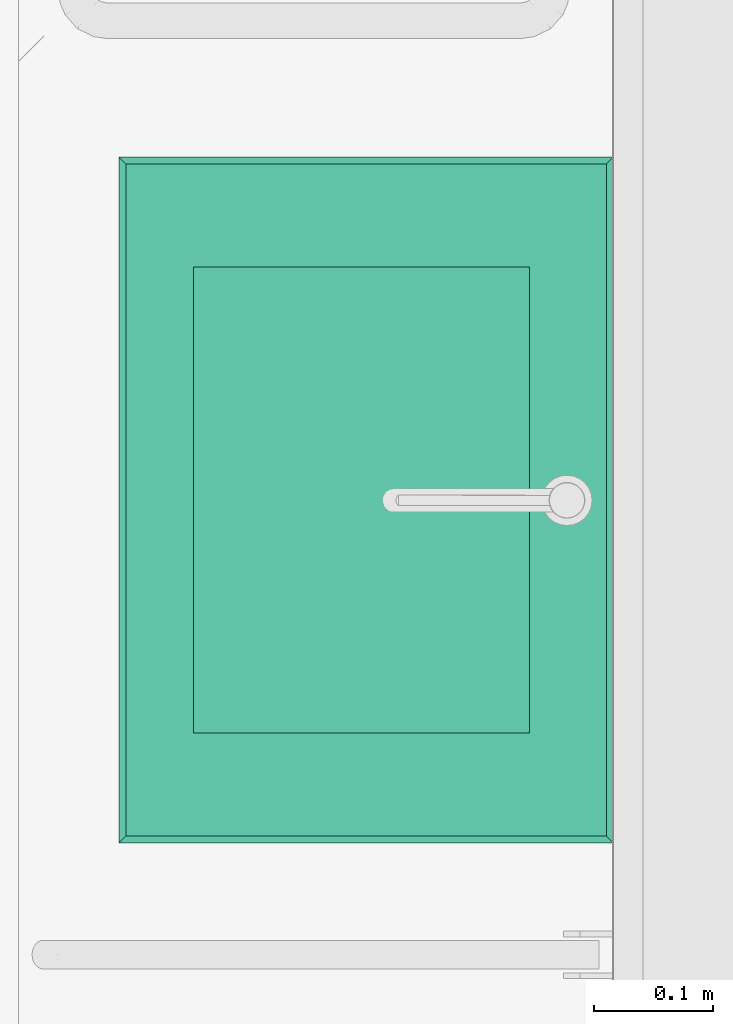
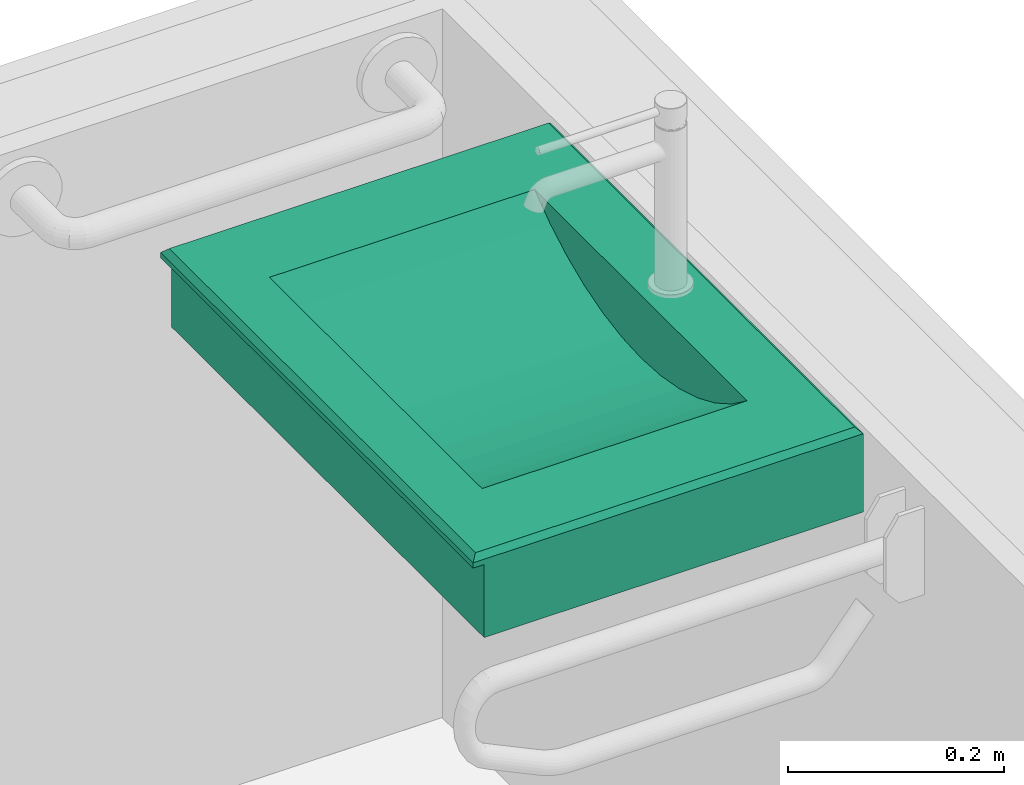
# One storey, part 4 of 4: 1 flow terminal.
"""IFC2X3 building model written with IfcOpenShell, lengths in millimetres."""

import ifcopenshell
import ifcopenshell.guid

model = None  # the IFC model being written
_history = None  # IfcOwnerHistory: only IFC2X3 demands one
_inside = {}  # id of a spatial element -> (the spatial element, [elements in it])
_under = {}  # id of a project, library or spatial element -> (it, [spatial elements below it])
_declared = {}  # id of a project -> (the project, [libraries it declares])
_typed = {}  # id of a type object -> (the type object, [elements of that type])
_made_of = {}  # id of a material, layer set ... -> (it, [elements and type objects made of it])


def new_model(schema):
    """Start an empty IFC model of exactly this schema.

    Asked for "IFC4X3", IfcOpenShell would pick the latest addendum, in which some entities
    have other attributes; the version numbers below select the first issue.
    IFC2X3 requires an IfcOwnerHistory on every rooted entity: one is made here for all.
    """
    global model, _history
    if schema == "IFC4X3":
        model = ifcopenshell.file(schema_version=(4, 3, 0, 0))
    else:
        model = ifcopenshell.file(schema=schema)
    _inside.clear()
    _under.clear()
    _declared.clear()
    _typed.clear()
    _made_of.clear()
    _history = None
    if model.schema == "IFC2X3":
        org = make("IfcOrganization", Name="unknown")
        user = make(
            "IfcPersonAndOrganization",
            ThePerson=make("IfcPerson", FamilyName="unknown"),
            TheOrganization=org,
        )
        app = make(
            "IfcApplication",
            ApplicationDeveloper=org,
            Version="unknown",
            ApplicationFullName="unknown",
            ApplicationIdentifier="unknown",
        )
        _history = make(
            "IfcOwnerHistory",
            OwningUser=user,
            OwningApplication=app,
            ChangeAction="ADDED",
            CreationDate=0,
        )
    return model


def make(cls, **values):
    """One entity of the class cls with the attributes given. An attribute that is None is left unset."""
    return model.create_entity(
        cls, **{name: value for name, value in values.items() if value is not None}
    )


def rooted(cls, **values):
    """An entity with a GlobalId (a new one), such as an element, a storey or a relation."""
    return make(cls, GlobalId=ifcopenshell.guid.new(), OwnerHistory=_history, **values)


def si_unit(unit_type, name, prefix=None):
    """IfcSIUnit, for example si_unit("LENGTHUNIT", "METRE", prefix="MILLI")."""
    return make("IfcSIUnit", UnitType=unit_type, Prefix=prefix, Name=name)


def assignment(units):
    """IfcUnitAssignment: the units of a project."""
    return None if units is None else make("IfcUnitAssignment", Units=units)


def point(xyz):
    """IfcCartesianPoint."""
    return None if xyz is None else make("IfcCartesianPoint", Coordinates=xyz)


def direction(xyz):
    """IfcDirection."""
    return None if xyz is None else make("IfcDirection", DirectionRatios=xyz)


def frame(location, z_axis=None, x_axis=None):
    """IfcAxis2Placement3D, a coordinate frame: its origin and axes. An axis left out is left unset."""
    return make(
        "IfcAxis2Placement3D",
        Location=point(location),
        Axis=direction(z_axis),
        RefDirection=direction(x_axis),
    )


def origin_with_axes():
    """The frame at (0, 0, 0) with the z axis (0, 0, 1) and the x axis (1, 0, 0) written out."""
    return frame((0.0, 0.0, 0.0), z_axis=(0.0, 0.0, 1.0), x_axis=(1.0, 0.0, 0.0))


def place(relative_to, where):
    """IfcLocalPlacement: puts the frame where relative to a parent placement (None: the world)."""
    return make(
        "IfcLocalPlacement", PlacementRelTo=relative_to, RelativePlacement=where
    )


def context(
    kind, dimensions, precision=None, world=None, true_north=None, identifier=None
):
    """IfcGeometricRepresentationContext, for example the 3D "Model" context."""
    return make(
        "IfcGeometricRepresentationContext",
        ContextIdentifier=identifier,
        ContextType=kind,
        CoordinateSpaceDimension=dimensions,
        Precision=precision,
        WorldCoordinateSystem=world,
        TrueNorth=true_north,
    )


def subcontext(parent, identifier, kind, view, scale=None):
    """IfcGeometricRepresentationSubContext, for example "Body" below "Model"."""
    return make(
        "IfcGeometricRepresentationSubContext",
        ContextIdentifier=identifier,
        ContextType=kind,
        ParentContext=parent,
        TargetScale=scale,
        TargetView=view,
    )


def project(units=None, contexts=None):
    """IfcProject with its units and contexts."""
    return rooted(
        "IfcProject",
        Name="project",
        RepresentationContexts=contexts,
        UnitsInContext=assignment(units),
    )


def spatial(cls, under=None, at=None, **own):
    """A site, building, storey or space (cls), placed at a placement, below another one or the project."""
    s = rooted(cls, ObjectPlacement=at, **own)
    if under is not None:
        _under.setdefault(under.id(), (under, []))[1].append(s)
    return s


def faces_of(points, faces, orient=None, outer=None):
    """IfcFace entities. A face is a list of loops; a loop is a list of indices into points, from 0.

    orient and outer hold one flag for each loop. By default every Orientation is true, the
    first loop of a face is its IfcFaceOuterBound and the others are IfcFaceBound.
    """
    made = []
    for i, loops in enumerate(faces):
        bounds = []
        for j, loop in enumerate(loops):
            is_outer = j == 0 if outer is None else outer[i][j]
            bounds.append(
                make(
                    "IfcFaceOuterBound" if is_outer else "IfcFaceBound",
                    Bound=make("IfcPolyLoop", Polygon=[points[k] for k in loop]),
                    Orientation=True if orient is None else orient[i][j],
                )
            )
        made.append(make("IfcFace", Bounds=bounds))
    return made


def faceted_brep(points, faces, orient=None, outer=None, voids=None):
    """IfcFacetedBrep: a solid bounded by flat faces; with voids (closed shells), ...WithVoids."""
    shared = [point(p) for p in points]
    hull = make("IfcClosedShell", CfsFaces=faces_of(shared, faces, orient, outer))
    if voids is None:
        return make("IfcFacetedBrep", Outer=hull)
    return make(
        "IfcFacetedBrepWithVoids",
        Outer=hull,
        Voids=[
            make(cls, CfsFaces=faces_of(shared, fs, o, b)) for cls, fs, o, b in voids
        ],
    )


def shape(context_of_items, identifier, shape_type, items):
    """IfcShapeRepresentation: the items that make up one representation, for example the "Body"."""
    return make(
        "IfcShapeRepresentation",
        ContextOfItems=context_of_items,
        RepresentationIdentifier=identifier,
        RepresentationType=shape_type,
        Items=items,
    )


def material(Name=None, Category=None):
    """IfcMaterial."""
    return make("IfcMaterial", Name=Name, Category=Category)


def made_of(thing, what):
    """Note that an element or type object is made of a material, layer set ...; save() writes the relation."""
    if what is not None:
        _made_of.setdefault(what.id(), (what, []))[1].append(thing)
    return thing


def type_object(cls, material=None, **own):
    """A type object (cls), such as IfcWallType, which elements share."""
    return made_of(rooted(cls, **own), material)


def element(
    cls,
    number,
    at=None,
    inside=None,
    cuts=None,
    type_object=None,
    material=None,
    context=None,
    identifier="Body",
    shape_type=None,
    held_by="IfcProductDefinitionShape",
    body=None,
    shapes=None,
    **own,
):
    """One element of the class cls, such as IfcWall. Its Tag is "e" and its number.

    at: its placement. inside: the storey or other place that contains it. cuts: it is an
    opening in that element (IfcRelVoidsElement). A single representation is given by context,
    identifier, shape_type and body (its items); several are given by shapes. held_by: the class
    of the entity that holds the representations. save() writes the other relations.
    """
    e = rooted(cls, Tag="e%d" % number, ObjectPlacement=at, **own)
    if body is not None:
        shapes = [shape(context, identifier, shape_type, body)]
    if shapes is not None:
        e.Representation = make(held_by, Representations=shapes)
    if inside is not None:
        _inside.setdefault(inside.id(), (inside, []))[1].append(e)
    if cuts is not None:
        rooted(
            "IfcRelVoidsElement", RelatingBuildingElement=cuts, RelatedOpeningElement=e
        )
    if type_object is not None:
        _typed.setdefault(type_object.id(), (type_object, []))[1].append(e)
    return made_of(e, material)


def aggregate(whole, parts):
    """IfcRelAggregates: a whole, such as a stair, and the parts it consists of."""
    return rooted("IfcRelAggregates", RelatingObject=whole, RelatedObjects=parts)


def save(model, path):
    """Write the relations noted so far, then the file.

    IfcRelAggregates (storeys below a building ...), IfcRelContainedInSpatialStructure (elements
    in a storey), IfcRelDefinesByType, IfcRelAssociatesMaterial and IfcRelDeclares: one each for
    every whole, place, type object, material and project.
    """
    for whole, parts in _under.values():
        aggregate(whole, parts)
    for where, things in _inside.values():
        rooted(
            "IfcRelContainedInSpatialStructure",
            RelatedElements=things,
            RelatingStructure=where,
        )
    for kind, things in _typed.values():
        rooted("IfcRelDefinesByType", RelatedObjects=things, RelatingType=kind)
    for what, things in _made_of.values():
        rooted("IfcRelAssociatesMaterial", RelatedObjects=things, RelatingMaterial=what)
    for by, libraries in _declared.values():
        rooted("IfcRelDeclares", RelatingContext=by, RelatedDefinitions=libraries)
    model.write(path)


model = new_model("IFC2X3")

# Units and contexts
model_context = context("Model", 3, world=origin_with_axes())
body_context = subcontext(model_context, "Body", "Model", "MODEL_VIEW")
ifc_project = project(units=[si_unit("LENGTHUNIT", "METRE", prefix="MILLI"), si_unit("AREAUNIT", "SQUARE_METRE"), si_unit("VOLUMEUNIT", "CUBIC_METRE")], contexts=[model_context])

# Site, building, storey
site_placement = place(None, origin_with_axes())
site = spatial("IfcSite", under=ifc_project, at=site_placement, Name="Default Site", CompositionType="ELEMENT")
building_placement = place(site_placement, frame((2276.0499999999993, -7.219114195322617e-13, 0.0), z_axis=(0.0, 0.0, 1.0), x_axis=(2.9143354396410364e-16, 1.0, 0.0)))
building = spatial("IfcBuilding", under=site, at=building_placement, Name="Default Building", CompositionType="ELEMENT")
storey_placement = place(building_placement, origin_with_axes())
storey = spatial("IfcBuildingStorey", under=building, at=storey_placement, Name="Default Building Storey", CompositionType="ELEMENT", Elevation=0.0)

# Flow terminal
ifc_material = material(Name="RPS_Lamp_white")
sanitary_terminal_type = type_object("IfcSanitaryTerminalType", Name="Umywalka", PredefinedType="BATH")
flow_terminal_placement = place(storey_placement, frame((1597.5369602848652, 150.0000000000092, 550.0), z_axis=(0.0, 0.0, 1.0), x_axis=(1.0, 0.0, 0.0)))
element("IfcFlowTerminal", 1, at=flow_terminal_placement, inside=storey, type_object=sanitary_terminal_type, material=ifc_material, Name="Umywalka", context=body_context, shape_type="Brep", body=[
    faceted_brep([(571.5705597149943, 5.892480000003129, 248.26982400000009), (571.5705597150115, 410.5094399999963, 248.26982400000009), (5.89248000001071, 410.50944000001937, 248.26982400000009), (5.892479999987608, 5.892480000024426, 248.26982400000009), (92.31551985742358, 353.5488000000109, 248.26982400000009), (485.14751985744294, 353.5487999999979, 248.26982400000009), (485.14751985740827, 70.70975999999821, 248.26982400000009), (92.3155198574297, 70.70976000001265, 248.26982400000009), (5.775291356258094e-12, 416.40192000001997, 242.3773440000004), (0.0, 2.3462121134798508e-11, 242.3773440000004), (253.31507713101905, 353.5488000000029, 179.60204709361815), (288.7315198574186, 353.54880000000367, 177.56006400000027), (324.1479625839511, 353.5487999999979, 179.60204709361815), (359.0950323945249, 353.5487999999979, 185.70093404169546), (393.1095769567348, 353.54879999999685, 195.77589650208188), (425.74080266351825, 353.54879999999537, 209.6934113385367), (456.55624898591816, 353.5487999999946, 227.26903019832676), (120.90679072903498, 353.54880000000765, 227.26903019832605), (151.7222370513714, 353.54880000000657, 209.6934113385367), (184.35346275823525, 353.54880000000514, 195.77589650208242), (218.36800732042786, 353.54880000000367, 185.70093404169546), (1.732587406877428e-11, 404.61696000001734, 153.9901440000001), (577.4630397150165, 404.61695999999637, 153.9901440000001), (577.4630397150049, 1.8047785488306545e-12, 153.9901440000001), (0.0, 2.3462121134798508e-11, 153.9901440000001), (577.4630397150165, 404.61695999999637, 236.4848640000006), (1.732587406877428e-11, 404.61696000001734, 236.4848640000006), (5.775291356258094e-12, 416.40192000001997, 236.4848640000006), (577.4630397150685, 416.401919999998, 236.4848640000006), (577.4630397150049, 1.8047785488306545e-12, 242.3773440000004), (288.73151985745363, 190.31886831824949, 177.56006400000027), (288.7315198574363, 233.93969168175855, 177.56006400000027), (285.83490181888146, 233.9356956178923, 177.7270724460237), (280.299043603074, 232.44171504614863, 178.04624986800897), (275.33784470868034, 229.56347559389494, 178.33229452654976), (271.28940264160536, 225.49712452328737, 178.5657129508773), (268.4296120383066, 220.51977693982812, 178.73059806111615), (266.9533629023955, 214.97063085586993, 178.8157132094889), (266.96125917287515, 209.2278514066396, 178.8152579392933), (268.45276273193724, 203.68279952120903, 178.72926327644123), (271.32623007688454, 198.71336132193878, 178.56358961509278), (275.38583915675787, 194.65819580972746, 178.3295273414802), (280.35493432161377, 191.79365581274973, 178.04302741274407), (285.89487994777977, 190.31495499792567, 177.7236143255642), (577.4630397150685, 416.401919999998, 242.3773440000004), (288.7315198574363, 234.0259327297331, 177.56006400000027), (288.73151985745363, 190.2326272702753, 177.56006400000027), (289.65600253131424, 190.1501867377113, 177.6133663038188), (295.3036777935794, 191.13877727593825, 177.93899068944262), (300.503471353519, 193.55783588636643, 178.23879184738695), (304.90102587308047, 197.24250772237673, 178.49233882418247), (308.19665527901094, 201.94168848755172, 178.6823528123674), (310.16576787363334, 207.33513677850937, 178.795884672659), (310.6741718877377, 213.0552980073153, 178.82519739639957), (309.68722042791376, 218.7123526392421, 178.76829336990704), (307.2721726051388, 223.92078174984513, 178.62905050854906), (303.5936099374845, 228.3256395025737, 178.4169579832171), (298.90222039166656, 231.6267421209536, 178.14646954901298), (293.51771441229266, 233.59912491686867, 177.83601854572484), (288.7315198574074, 70.70976000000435, 177.56006400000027), (253.31507713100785, 70.70976000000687, 179.60204709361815), (218.368007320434, 70.7097600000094, 185.70093404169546), (184.35346275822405, 70.70976000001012, 195.77589650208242), (151.7222370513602, 70.7097600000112, 209.6934113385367), (120.9067907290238, 70.70976000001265, 227.26903019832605), (456.55624898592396, 70.70975999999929, 227.26903019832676), (425.7408026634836, 70.70976000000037, 209.6934113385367), (393.1095769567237, 70.70976000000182, 195.77589650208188), (359.09503239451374, 70.7097600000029, 185.70093404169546), (324.1479625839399, 70.70976000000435, 179.60204709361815)], [[[0, 1, 2, 3], [4, 5, 6, 7]], [[2, 8, 9, 3]], [[10, 11, 12, 13, 14, 15, 16, 5, 4, 17, 18, 19, 20]], [[21, 22, 23, 24]], [[25, 26, 27, 28]], [[21, 26, 25, 22]], [[23, 29, 9, 24]], [[30, 31, 32, 33, 34, 35, 36, 37, 38, 39, 40, 41, 42, 43]], [[27, 8, 44, 28]], [[44, 29, 23, 22, 25, 28]], [[45, 31, 30, 46, 47, 48, 49, 50, 51, 52, 53, 54, 55, 56, 57, 58]], [[59, 60, 61, 62, 63, 64, 7, 6, 65, 66, 67, 68, 69]], [[2, 1, 44, 8]], [[3, 9, 29, 0]], [[1, 0, 29, 44]], [[26, 21, 24, 9, 8, 27]]]),
    faceted_brep([(184.35346275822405, 70.70976000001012, 195.77589650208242), (218.368007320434, 70.7097600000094, 185.70093404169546), (218.36800732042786, 353.54880000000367, 185.70093404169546), (184.35346275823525, 353.54880000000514, 195.77589650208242), (324.1479625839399, 70.70976000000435, 179.60204709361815), (359.09503239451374, 70.7097600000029, 185.70093404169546), (359.0950323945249, 353.5487999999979, 185.70093404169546), (324.1479625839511, 353.5487999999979, 179.60204709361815), (120.9067907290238, 70.70976000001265, 227.26903019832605), (151.7222370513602, 70.7097600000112, 209.6934113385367), (151.7222370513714, 353.54880000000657, 209.6934113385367), (120.90679072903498, 353.54880000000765, 227.26903019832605), (393.1095769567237, 70.70976000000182, 195.77589650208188), (393.1095769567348, 353.54879999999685, 195.77589650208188), (425.7408026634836, 70.70976000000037, 209.6934113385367), (456.55624898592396, 70.70975999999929, 227.26903019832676), (456.55624898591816, 353.5487999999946, 227.26903019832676), (425.74080266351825, 353.54879999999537, 209.6934113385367), (288.7315198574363, 233.93969168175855, 177.56006400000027), (288.7315198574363, 234.0259327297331, 177.56006400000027), (288.7315198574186, 353.54880000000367, 177.56006400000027), (253.31507713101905, 353.5488000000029, 179.60204709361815), (253.31507713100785, 70.70976000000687, 179.60204709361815), (288.7315198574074, 70.70976000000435, 177.56006400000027), (288.73151985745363, 190.2326272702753, 177.56006400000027), (288.73151985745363, 190.31886831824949, 177.56006400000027), (285.89487994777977, 190.31495499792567, 177.7236143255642), (280.35493432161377, 191.79365581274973, 178.04302741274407), (275.38583915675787, 194.65819580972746, 178.3295273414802), (271.32623007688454, 198.71336132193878, 178.56358961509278), (268.45276273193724, 203.68279952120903, 178.72926327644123), (266.96125917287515, 209.2278514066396, 178.8152579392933), (266.9533629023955, 214.97063085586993, 178.8157132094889), (268.4296120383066, 220.51977693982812, 178.73059806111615), (271.28940264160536, 225.49712452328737, 178.5657129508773), (275.33784470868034, 229.56347559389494, 178.33229452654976), (280.299043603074, 232.44171504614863, 178.04624986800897), (285.83490181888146, 233.9356956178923, 177.7270724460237), (293.51771441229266, 233.59912491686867, 177.83601854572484), (298.90222039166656, 231.6267421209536, 178.14646954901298), (303.5936099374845, 228.3256395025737, 178.4169579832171), (307.2721726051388, 223.92078174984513, 178.62905050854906), (309.68722042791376, 218.7123526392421, 178.76829336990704), (310.6741718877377, 213.0552980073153, 178.82519739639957), (310.16576787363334, 207.33513677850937, 178.795884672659), (308.19665527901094, 201.94168848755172, 178.6823528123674), (304.90102587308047, 197.24250772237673, 178.49233882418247), (300.503471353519, 193.55783588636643, 178.23879184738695), (295.3036777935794, 191.13877727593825, 177.93899068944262), (289.65600253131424, 190.1501867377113, 177.6133663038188), (485.14751985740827, 70.70975999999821, 248.26982400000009), (485.14751985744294, 353.5487999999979, 248.26982400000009), (92.3155198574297, 70.70976000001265, 248.26982400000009), (92.31551985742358, 353.5488000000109, 248.26982400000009)], [[[0, 1, 2, 3]], [[4, 5, 6, 7]], [[8, 9, 10, 11]], [[5, 12, 13, 6]], [[14, 15, 16, 17]], [[9, 0, 3, 10]], [[18, 19, 20, 21, 22, 23, 24, 25, 26, 27, 28, 29, 30, 31, 32, 33, 34, 35, 36, 37]], [[1, 22, 21, 2]], [[24, 23, 4, 7, 20, 19, 38, 39, 40, 41, 42, 43, 44, 45, 46, 47, 48, 49]], [[15, 50, 51, 16]], [[12, 14, 17, 13]], [[52, 8, 11, 53]]]),
    faceted_brep([(291.5681597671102, 233.94360500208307, 177.3965136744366), (288.7315198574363, 233.93969168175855, 177.56006400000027), (288.73151985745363, 190.31886831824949, 177.56006400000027), (291.62813789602, 190.32286438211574, 177.3930555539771), (297.163996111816, 191.81684495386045, 177.07387813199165), (302.12519500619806, 194.69508440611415, 176.78783347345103), (306.1736370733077, 198.76143547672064, 176.55441504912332), (309.0334276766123, 203.73878306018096, 176.38952993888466), (310.50967681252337, 209.28792914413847, 176.30441479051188), (310.501780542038, 215.0307085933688, 176.30487006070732), (309.0102769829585, 220.57576047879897, 176.39086472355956), (306.1368096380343, 225.54519867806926, 176.556538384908), (302.07720055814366, 229.60036419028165, 176.7906006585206), (297.1081053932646, 232.46490418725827, 177.07710058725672), (283.94532530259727, 190.65943508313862, 177.28410945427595), (288.73151985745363, 190.2326272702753, 177.56006400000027), (288.7315198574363, 234.0259327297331, 177.56006400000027), (287.8070371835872, 234.10837326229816, 177.506761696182), (282.15936192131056, 233.1197827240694, 177.18113731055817), (276.95956836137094, 230.70072411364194, 176.88133615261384), (272.56201384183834, 227.0160522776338, 176.62778917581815), (269.2663844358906, 222.31687151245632, 176.43777518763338), (267.2972718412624, 216.923423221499, 176.3242433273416), (266.78886782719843, 211.20326199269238, 176.29493060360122), (267.7758192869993, 205.54620736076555, 176.35183463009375), (270.190867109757, 200.3377782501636, 176.49107749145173), (273.8694297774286, 195.93292049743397, 176.7031700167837), (278.56081932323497, 192.6318178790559, 176.97365845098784)], [[[0, 1, 2, 3, 4, 5, 6, 7, 8, 9, 10, 11, 12, 13]], [[14, 15, 2, 1, 16, 17, 18, 19, 20, 21, 22, 23, 24, 25, 26, 27]]]),
    faceted_brep([(235.2319939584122, 198.79356719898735, 153.99014400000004), (236.57053653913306, 188.62632688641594, 153.99014400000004), (240.49494481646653, 179.1519671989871, 153.99014400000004), (246.73777685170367, 171.01615009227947, 153.99014400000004), (254.87359395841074, 164.77331805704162, 153.99014400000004), (264.34795364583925, 160.84890977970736, 153.99014400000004), (274.5151939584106, 159.51036719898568, 153.99014400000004), (284.68243427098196, 160.8489097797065, 153.99014400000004), (294.1567939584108, 164.77331805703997, 153.99014400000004), (302.2926110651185, 171.01615009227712, 153.99014400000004), (308.53544310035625, 179.15196719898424, 153.99014400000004), (312.45985137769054, 188.62632688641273, 153.99014400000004), (313.79839395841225, 198.79356719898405, 153.99014400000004), (312.4598513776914, 208.96080751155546, 153.99014400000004), (308.53544310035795, 218.43516719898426, 153.99014400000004), (302.2926110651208, 226.57098430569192, 153.99014400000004), (294.1567939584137, 232.81381634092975, 153.99014400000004), (284.6824342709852, 236.738224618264, 153.99014400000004), (274.5151939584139, 238.07676719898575, 153.99014400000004), (264.3479536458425, 236.73822461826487, 153.99014400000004), (254.87359395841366, 232.8138163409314, 153.99014400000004), (246.737776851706, 226.57098430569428, 153.99014400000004), (240.4949448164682, 218.43516719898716, 153.99014400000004), (236.5705365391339, 208.9608075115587, 153.99014400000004), (244.1594680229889, 190.6597749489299, 153.99014400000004), (243.0886339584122, 198.793567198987, 153.99014400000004), (244.15946802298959, 206.92735944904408, 153.99014400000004), (247.298994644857, 214.50684719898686, 153.99014400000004), (252.29326027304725, 221.01550088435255, 153.99014400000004), (258.80191395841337, 226.00976651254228, 153.99014400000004), (266.38140170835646, 229.14929313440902, 153.99014400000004), (274.5151939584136, 230.22012719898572, 153.99014400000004), (282.6489862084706, 229.14929313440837, 153.99014400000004), (290.2284739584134, 226.00976651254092, 153.99014400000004), (296.7371276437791, 221.01550088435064, 153.99014400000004), (301.7313932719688, 214.50684719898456, 153.99014400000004), (304.87091989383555, 206.92735944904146, 153.99014400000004), (305.9417539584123, 198.79356719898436, 153.99014400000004), (304.87091989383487, 190.65977494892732, 153.99014400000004), (301.7313932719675, 183.08028719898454, 153.99014400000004), (296.7371276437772, 176.57163351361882, 153.99014400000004), (290.2284739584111, 171.57736788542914, 153.99014400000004), (282.648986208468, 168.43784126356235, 153.99014400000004), (274.51519395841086, 167.36700719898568, 153.99014400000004), (266.38140170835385, 168.43784126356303, 153.99014400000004), (258.80191395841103, 171.57736788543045, 153.99014400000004), (252.29326027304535, 176.5716335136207, 153.99014400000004), (247.29899464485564, 183.08028719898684, 153.99014400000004), (236.5705365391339, 208.9608075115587, 29.115959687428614), (235.2319939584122, 198.79356719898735, 39.28319999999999), (240.4949448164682, 218.43516719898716, 19.64159999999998), (246.737776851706, 226.57098430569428, 11.505782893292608), (254.87359395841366, 232.8138163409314, 5.262950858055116), (264.3479536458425, 236.73822461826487, 1.338542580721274), (274.5151939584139, 238.07676719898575, 5.639932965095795e-15), (284.6824342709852, 236.738224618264, 1.338542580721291), (294.1567939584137, 232.81381634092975, 5.262950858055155), (302.2926110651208, 226.57098430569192, 11.505782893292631), (308.53544310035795, 218.43516719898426, 19.641600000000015), (312.4598513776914, 208.96080751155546, 29.115959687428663), (313.79839395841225, 198.79356719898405, 39.28319999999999), (312.45985137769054, 188.62632688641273, 49.450440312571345), (308.53544310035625, 179.15196719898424, 58.92479999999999), (302.2926110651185, 171.01615009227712, 67.06061710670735), (294.1567939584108, 164.77331805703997, 73.30344914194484), (284.68243427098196, 160.8489097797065, 77.2278574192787), (274.5151939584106, 159.51036719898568, 78.56639999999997), (264.34795364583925, 160.84890977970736, 77.2278574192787), (254.87359395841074, 164.77331805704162, 73.30344914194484), (246.73777685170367, 171.01615009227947, 67.06061710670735), (240.49494481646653, 179.1519671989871, 58.92479999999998), (236.57053653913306, 188.62632688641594, 49.450440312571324), (247.29899464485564, 183.08028719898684, 54.99647999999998), (244.1594680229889, 190.6597749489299, 47.416992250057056), (252.29326027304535, 176.5716335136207, 61.50513368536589), (258.80191395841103, 171.57736788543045, 66.49939931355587), (266.38140170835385, 168.43784126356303, 69.63892593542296), (274.51519395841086, 167.36700719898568, 70.70975999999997), (282.648986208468, 168.43784126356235, 69.63892593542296), (290.2284739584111, 171.57736788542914, 66.49939931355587), (296.7371276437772, 176.57163351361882, 61.50513368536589), (301.7313932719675, 183.08028719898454, 54.99648), (304.87091989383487, 190.65977494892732, 47.416992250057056), (305.9417539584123, 198.79356719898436, 39.28319999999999), (304.87091989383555, 206.92735944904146, 31.14940774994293), (301.7313932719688, 214.50684719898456, 23.569920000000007), (296.7371276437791, 221.01550088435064, 17.061266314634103), (290.2284739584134, 226.00976651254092, 12.067000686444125), (282.6489862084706, 229.14929313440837, 8.927474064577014), (274.5151939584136, 230.22012719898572, 7.856639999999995), (266.38140170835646, 229.14929313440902, 8.927474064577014), (258.80191395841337, 226.00976651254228, 12.067000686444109), (252.29326027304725, 221.01550088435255, 17.061266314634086), (247.298994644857, 214.50684719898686, 23.569919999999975), (244.15946802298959, 206.92735944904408, 31.14940774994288), (243.0886339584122, 198.793567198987, 39.28319999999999), (236.57053653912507, 3.790034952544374e-12, 29.115959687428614), (235.23199395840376, 3.835154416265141e-12, 39.28319999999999), (240.4949448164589, 3.632116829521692e-12, 19.64159999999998), (246.7377768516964, 3.361400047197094e-12, 11.505782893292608), (254.8735939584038, 3.023004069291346e-12, 5.262950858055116), (264.3479536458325, 2.6169288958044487e-12, 1.338542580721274), (274.5151939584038, 2.1882939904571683e-12, 5.639932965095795e-15), (284.68243427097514, 1.759659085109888e-12, 1.338542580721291), (294.15679395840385, 1.3535839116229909e-12, 5.262950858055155), (302.2926110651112, 1.0151879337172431e-12, 11.505782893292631), (308.5354431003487, 7.444711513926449e-13, 19.641600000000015), (312.4598513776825, 5.865530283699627e-13, 29.115959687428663), (313.79839395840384, 5.414335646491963e-13, 39.28319999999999), (312.4598513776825, 5.865530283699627e-13, 49.450440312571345), (308.5354431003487, 7.444711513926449e-13, 58.92479999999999), (302.2926110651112, 1.0151879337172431e-12, 67.06061710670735), (294.1567939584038, 1.3535839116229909e-12, 73.30344914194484), (284.68243427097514, 1.759659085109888e-12, 77.2278574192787), (274.5151939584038, 2.1882939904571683e-12, 78.56639999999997), (264.34795364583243, 2.6169288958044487e-12, 77.2278574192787), (254.8735939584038, 3.023004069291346e-12, 73.30344914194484), (246.7377768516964, 3.361400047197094e-12, 67.06061710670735), (240.4949448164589, 3.632116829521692e-12, 58.92479999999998), (236.57053653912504, 3.790034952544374e-12, 49.450440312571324), (247.29899464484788, 3.3388403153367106e-12, 54.99647999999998), (244.15946802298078, 3.4741987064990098e-12, 47.416992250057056), (252.29326027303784, 3.135802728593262e-12, 61.50513368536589), (258.80191395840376, 2.8425262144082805e-12, 66.49939931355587), (266.38140170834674, 2.526689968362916e-12, 69.63892593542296), (274.5151939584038, 2.1882939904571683e-12, 70.70975999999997), (282.6489862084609, 1.8498980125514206e-12, 69.63892593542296), (290.2284739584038, 1.5340617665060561e-12, 66.49939931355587), (296.7371276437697, 1.240785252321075e-12, 61.50513368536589), (301.7313932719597, 1.0377476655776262e-12, 54.99648), (304.8709198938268, 9.023892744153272e-13, 47.416992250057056), (305.9417539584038, 8.572698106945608e-13, 39.28319999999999), (304.8709198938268, 9.023892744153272e-13, 31.14940774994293), (301.7313932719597, 1.0377476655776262e-12, 23.569920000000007), (296.7371276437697, 1.240785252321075e-12, 17.061266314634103), (290.2284739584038, 1.5340617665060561e-12, 12.067000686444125), (282.6489862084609, 1.8498980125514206e-12, 8.927474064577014), (274.5151939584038, 2.1882939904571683e-12, 7.856639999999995), (266.38140170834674, 2.526689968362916e-12, 8.927474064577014), (258.8019139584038, 2.8425262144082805e-12, 12.067000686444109), (252.29326027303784, 3.135802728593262e-12, 17.061266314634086), (247.29899464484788, 3.3388403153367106e-12, 23.569919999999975), (244.15946802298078, 3.4741987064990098e-12, 31.14940774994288), (243.08863395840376, 3.519318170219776e-12, 39.28319999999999)], [[[0, 1, 2, 3, 4, 5, 6, 7, 8, 9, 10, 11, 12, 13, 14, 15, 16, 17, 18, 19, 20, 21, 22, 23], [24, 25, 26, 27, 28, 29, 30, 31, 32, 33, 34, 35, 36, 37, 38, 39, 40, 41, 42, 43, 44, 45, 46, 47]], [[0, 23, 48, 49]], [[23, 22, 50, 48]], [[22, 21, 51, 50]], [[21, 20, 52, 51]], [[20, 19, 53, 52]], [[19, 18, 54, 53]], [[18, 17, 55, 54]], [[17, 16, 56, 55]], [[16, 15, 57, 56]], [[15, 14, 58, 57]], [[14, 13, 59, 58]], [[13, 12, 60, 59]], [[12, 11, 61, 60]], [[11, 10, 62, 61]], [[10, 9, 63, 62]], [[9, 8, 64, 63]], [[8, 7, 65, 64]], [[7, 6, 66, 65]], [[6, 5, 67, 66]], [[5, 4, 68, 67]], [[4, 3, 69, 68]], [[3, 2, 70, 69]], [[2, 1, 71, 70]], [[1, 0, 49, 71]], [[24, 47, 72, 73]], [[47, 46, 74, 72]], [[46, 45, 75, 74]], [[45, 44, 76, 75]], [[44, 43, 77, 76]], [[43, 42, 78, 77]], [[42, 41, 79, 78]], [[41, 40, 80, 79]], [[40, 39, 81, 80]], [[39, 38, 82, 81]], [[38, 37, 83, 82]], [[37, 36, 84, 83]], [[36, 35, 85, 84]], [[35, 34, 86, 85]], [[34, 33, 87, 86]], [[33, 32, 88, 87]], [[32, 31, 89, 88]], [[31, 30, 90, 89]], [[30, 29, 91, 90]], [[29, 28, 92, 91]], [[28, 27, 93, 92]], [[27, 26, 94, 93]], [[26, 25, 95, 94]], [[25, 24, 73, 95]], [[49, 48, 96, 97]], [[48, 50, 98, 96]], [[50, 51, 99, 98]], [[51, 52, 100, 99]], [[52, 53, 101, 100]], [[53, 54, 102, 101]], [[54, 55, 103, 102]], [[55, 56, 104, 103]], [[56, 57, 105, 104]], [[57, 58, 106, 105]], [[58, 59, 107, 106]], [[59, 60, 108, 107]], [[60, 61, 109, 108]], [[61, 62, 110, 109]], [[62, 63, 111, 110]], [[63, 64, 112, 111]], [[64, 65, 113, 112]], [[65, 66, 114, 113]], [[66, 67, 115, 114]], [[67, 68, 116, 115]], [[68, 69, 117, 116]], [[69, 70, 118, 117]], [[70, 71, 119, 118]], [[71, 49, 97, 119]], [[73, 72, 120, 121]], [[72, 74, 122, 120]], [[74, 75, 123, 122]], [[75, 76, 124, 123]], [[76, 77, 125, 124]], [[77, 78, 126, 125]], [[78, 79, 127, 126]], [[79, 80, 128, 127]], [[80, 81, 129, 128]], [[81, 82, 130, 129]], [[82, 83, 131, 130]], [[83, 84, 132, 131]], [[84, 85, 133, 132]], [[85, 86, 134, 133]], [[86, 87, 135, 134]], [[87, 88, 136, 135]], [[88, 89, 137, 136]], [[89, 90, 138, 137]], [[90, 91, 139, 138]], [[91, 92, 140, 139]], [[92, 93, 141, 140]], [[93, 94, 142, 141]], [[94, 95, 143, 142]], [[95, 73, 121, 143]], [[97, 96, 98, 99, 100, 101, 102, 103, 104, 105, 106, 107, 108, 109, 110, 111, 112, 113, 114, 115, 116, 117, 118, 119], [121, 120, 122, 123, 124, 125, 126, 127, 128, 129, 130, 131, 132, 133, 134, 135, 136, 137, 138, 139, 140, 141, 142, 143]]]),
])

save(model, "model.ifc")
